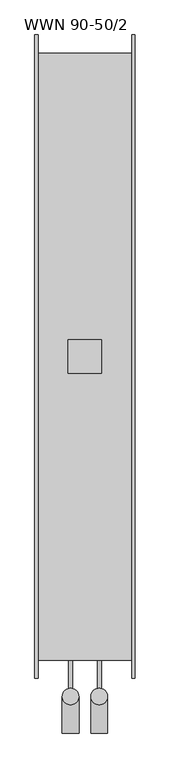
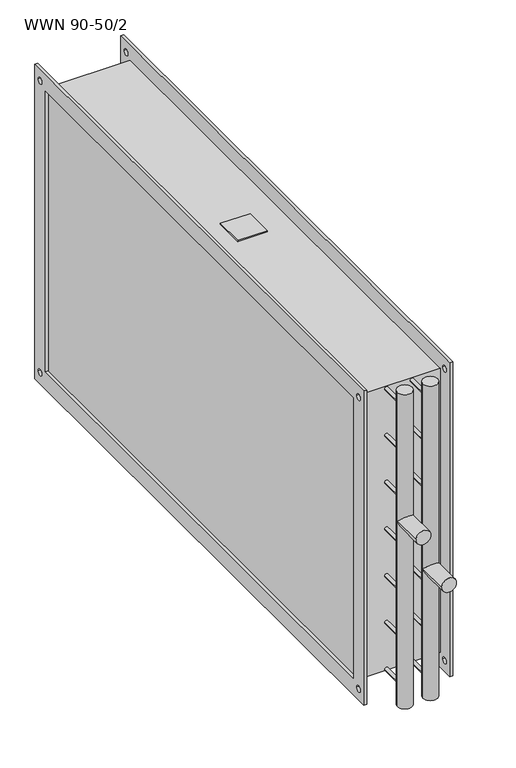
"""IFC4 building model written with IfcOpenShell, lengths in millimetres: proxy geometry, KORF_Нагреватель_Водяной_WWN : WWN 90-50/2."""

from ifc_helpers import new_model, si_unit, point, frame, frame_2d, origin, place, context, project, spatial, polyline, circle_curve, ellipse_curve, trimmed, segment, composite_curve, outline, extrude, source, transform, mapped, element, save
from ifc_brep_helpers import plane_surface, cylinder_surface, advanced_brep


def wwn_90_50_2_74f086dd(model_context):
    return source(origin(), model_context, "Body", "SolidModel", [
        extrude(outline(polyline([(50.0, -25.0), (50.0, 25.0), (100.0, 25.0), (100.0, -25.0), (50.0, -25.0)])), frame((0.0, 0.0, 253.0), z_axis=(0.0, 0.0, 1.0), x_axis=(1.0, 0.0, 0.0)), (0.0, 0.0, 1.0), 2.0),
        extrude(outline(polyline([(-480.0, 280.0), (480.0, 280.0), (480.0, -280.0), (-480.0, -280.0), (-480.0, 280.0)]), holes=[polyline([(-450.0, 250.0), (-450.0, -250.0), (450.0, -250.0), (450.0, 250.0), (-450.0, 250.0)]), composite_curve([segment(trimmed(circle_curve(frame_2d((465.0, 260.0)), 5.5), [point((459.5, 260.0))], [point((470.5, 260.0))], True, "CARTESIAN"), True, "CONTINUOUS"), segment(trimmed(circle_curve(frame_2d((465.0, 260.0)), 5.5), [point((470.5, 260.0))], [point((459.5, 260.0))], True, "CARTESIAN"), True, "CONTINUOUS")], self_intersect=False), composite_curve([segment(trimmed(circle_curve(frame_2d((-465.0, 260.0)), 5.5), [point((-470.5, 260.0))], [point((-459.5, 260.0))], True, "CARTESIAN"), True, "CONTINUOUS"), segment(trimmed(circle_curve(frame_2d((-465.0, 260.0)), 5.5), [point((-459.5, 260.0))], [point((-470.5, 260.0))], True, "CARTESIAN"), True, "CONTINUOUS")], self_intersect=False), composite_curve([segment(trimmed(circle_curve(frame_2d((-465.0, -260.0)), 5.5), [point((-470.5, -260.0))], [point((-459.5, -260.0))], True, "CARTESIAN"), True, "CONTINUOUS"), segment(trimmed(circle_curve(frame_2d((-465.0, -260.0)), 5.5), [point((-459.5, -260.0))], [point((-470.5, -260.0))], True, "CARTESIAN"), True, "CONTINUOUS")], self_intersect=False), composite_curve([segment(trimmed(circle_curve(frame_2d((465.0, -260.0)), 5.5), [point((459.5, -260.0))], [point((470.5, -260.0))], True, "CARTESIAN"), True, "CONTINUOUS"), segment(trimmed(circle_curve(frame_2d((465.0, -260.0)), 5.5), [point((470.5, -260.0))], [point((459.5, -260.0))], True, "CARTESIAN"), True, "CONTINUOUS")], self_intersect=False)]), frame((145.0, 0.0, 0.0), z_axis=(1.0, 0.0, 0.0), x_axis=(0.0, 1.0, 0.0)), (0.0, 0.0, 1.0), 5.0),
        extrude(outline(polyline([(-480.0, 280.0), (480.0, 280.0), (480.0, -280.0), (-480.0, -280.0), (-480.0, 280.0)]), holes=[polyline([(-450.0, 250.0), (-450.0, -250.0), (450.0, -250.0), (450.0, 250.0), (-450.0, 250.0)]), composite_curve([segment(trimmed(circle_curve(frame_2d((465.0, 260.0)), 5.5), [point((459.5, 260.0))], [point((470.5, 260.0))], True, "CARTESIAN"), True, "CONTINUOUS"), segment(trimmed(circle_curve(frame_2d((465.0, 260.0)), 5.5), [point((470.5, 260.0))], [point((459.5, 260.0))], True, "CARTESIAN"), True, "CONTINUOUS")], self_intersect=False), composite_curve([segment(trimmed(circle_curve(frame_2d((-465.0, 260.0)), 5.5), [point((-470.5, 260.0))], [point((-459.5, 260.0))], True, "CARTESIAN"), True, "CONTINUOUS"), segment(trimmed(circle_curve(frame_2d((-465.0, 260.0)), 5.5), [point((-459.5, 260.0))], [point((-470.5, 260.0))], True, "CARTESIAN"), True, "CONTINUOUS")], self_intersect=False), composite_curve([segment(trimmed(circle_curve(frame_2d((-465.0, -260.0)), 5.5), [point((-470.5, -260.0))], [point((-459.5, -260.0))], True, "CARTESIAN"), True, "CONTINUOUS"), segment(trimmed(circle_curve(frame_2d((-465.0, -260.0)), 5.5), [point((-459.5, -260.0))], [point((-470.5, -260.0))], True, "CARTESIAN"), True, "CONTINUOUS")], self_intersect=False), composite_curve([segment(trimmed(circle_curve(frame_2d((465.0, -260.0)), 5.5), [point((459.5, -260.0))], [point((470.5, -260.0))], True, "CARTESIAN"), True, "CONTINUOUS"), segment(trimmed(circle_curve(frame_2d((465.0, -260.0)), 5.5), [point((470.5, -260.0))], [point((459.5, -260.0))], True, "CARTESIAN"), True, "CONTINUOUS")], self_intersect=False)]), frame((0.0, 0.0, 0.0), z_axis=(1.0, 0.0, 0.0), x_axis=(0.0, 1.0, 0.0)), (0.0, 0.0, 1.0), 5.0),
        extrude(outline(polyline([(145.0, 453.0), (145.0, -453.0), (5.0, -453.0), (5.0, 453.0), (145.0, 453.0)])), frame((0.0, 0.0, -253.0), z_axis=(0.0, 0.0, 1.0), x_axis=(1.0, 0.0, 0.0)), (0.0, 0.0, 1.0), 506.0),
        advanced_brep(
        [(41.0, -562.0, 50.0), (66.0, -562.0, 50.0), (41.0, -507.5, 50.0), (66.0, -507.5, 50.0), (41.0, -507.5, 280.0), (66.0, -507.5, 280.0), (41.0, -507.5, -280.0), (66.0, -507.5, -280.0)],
        [
            (0, 1, circle_curve(frame((53.5, -562.0, 50.0), z_axis=(0.0, -1.0, 0.0), x_axis=(1.0, 0.0, 0.0)), 12.5)),
            (1, 0, circle_curve(frame((53.5, -562.0, 50.0), z_axis=(0.0, -1.0, 0.0), x_axis=(1.0, 0.0, 0.0)), 12.5)),
            (0, 2),
            (2, 3, ellipse_curve(frame((53.5, -507.5, 50.0), z_axis=(0.0, -0.7071067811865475, 0.7071067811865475), x_axis=(0.0, -0.7071067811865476, -0.7071067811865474)), 17.6776695, 12.5)),
            (3, 1),
            (3, 2, ellipse_curve(frame((53.5, -507.5, 50.0), z_axis=(0.0, -0.7071067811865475, -0.7071067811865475), x_axis=(0.0, -0.7071067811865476, 0.7071067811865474)), 17.6776695, 12.5)),
            (4, 5, circle_curve(frame((53.5, -507.5, 280.0), z_axis=(0.0, 0.0, 1.0), x_axis=(1.0, 0.0, 0.0)), 12.5)),
            (5, 4, circle_curve(frame((53.5, -507.5, 280.0), z_axis=(0.0, 0.0, 1.0), x_axis=(1.0, 0.0, 0.0)), 12.5)),
            (6, 7, circle_curve(frame((53.5, -507.5, -280.0), z_axis=(0.0, 0.0, -1.0), x_axis=(1.0, 0.0, 0.0)), 12.5)),
            (7, 6, circle_curve(frame((53.5, -507.5, -280.0), z_axis=(0.0, 0.0, -1.0), x_axis=(1.0, 0.0, 0.0)), 12.5)),
            (4, 2),
            (3, 5),
            (7, 3),
            (2, 6),
        ],
        [
            plane_surface(frame((66.0, -562.0, 50.0), z_axis=(0.0, -1.0, 0.0), x_axis=(0.0, 0.0, 1.0))),
            cylinder_surface(frame((53.5, -507.5, 50.0), z_axis=(0.0, -1.0, 0.0), x_axis=(1.0, 0.0, 0.0)), 12.5),
            plane_surface(frame((66.0, -507.5, 280.0), z_axis=(0.0, 0.0, 1.0), x_axis=(0.0, 1.0, 0.0))),
            plane_surface(frame((66.0, -507.5, -280.0), z_axis=(0.0, 0.0, -1.0), x_axis=(0.0, -1.0, 0.0))),
            cylinder_surface(frame((53.5, -507.5, -280.0), z_axis=(0.0, 0.0, 1.0), x_axis=(1.0, 0.0, 0.0)), 12.5),
        ],
        [
            (0, [[1, 2]]),
            (1, [[-1, 3, 4, 5]]),
            (1, [[-2, -5, 6, -3]]),
            (2, [[7, 8]]),
            (3, [[9, 10]]),
            (4, [[-7, 11, -6, 12]]),
            (4, [[-10, 13, -4, 14]]),
            (4, [[-8, -12, -13, -9, -14, -11]]),
        ],
    ),
        advanced_brep(
        [(84.0, -562.0, -50.0), (109.0, -562.0, -50.0), (84.0, -507.5, -50.0), (109.0, -507.5, -50.0), (84.0, -507.5, 280.0), (109.0, -507.5, 280.0), (84.0, -507.5, -280.0), (109.0, -507.5, -280.0)],
        [
            (0, 1, circle_curve(frame((96.5, -562.0, -50.0), z_axis=(0.0, -1.0, 0.0), x_axis=(1.0, 0.0, 0.0)), 12.5)),
            (1, 0, circle_curve(frame((96.5, -562.0, -50.0), z_axis=(0.0, -1.0, 0.0), x_axis=(1.0, 0.0, 0.0)), 12.5)),
            (0, 2),
            (2, 3, ellipse_curve(frame((96.5, -507.5, -50.0), z_axis=(0.0, -0.7071067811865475, 0.7071067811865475), x_axis=(0.0, -0.7071067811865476, -0.7071067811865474)), 17.6776695, 12.5)),
            (3, 1),
            (3, 2, ellipse_curve(frame((96.5, -507.5, -50.0), z_axis=(0.0, -0.7071067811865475, -0.7071067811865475), x_axis=(0.0, -0.7071067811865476, 0.7071067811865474)), 17.6776695, 12.5)),
            (4, 5, circle_curve(frame((96.5, -507.5, 280.0), z_axis=(0.0, 0.0, 1.0), x_axis=(1.0, 0.0, 0.0)), 12.5)),
            (5, 4, circle_curve(frame((96.5, -507.5, 280.0), z_axis=(0.0, 0.0, 1.0), x_axis=(1.0, 0.0, 0.0)), 12.5)),
            (6, 7, circle_curve(frame((96.5, -507.5, -280.0), z_axis=(0.0, 0.0, -1.0), x_axis=(1.0, 0.0, 0.0)), 12.5)),
            (7, 6, circle_curve(frame((96.5, -507.5, -280.0), z_axis=(0.0, 0.0, -1.0), x_axis=(1.0, 0.0, 0.0)), 12.5)),
            (4, 2),
            (3, 5),
            (7, 3),
            (2, 6),
        ],
        [
            plane_surface(frame((66.0, -562.0, 50.0), z_axis=(0.0, -1.0, 0.0), x_axis=(0.0, 0.0, 1.0))),
            cylinder_surface(frame((96.5, 0.0, -50.0), z_axis=(0.0, -1.0, 0.0), x_axis=(1.0, 0.0, 0.0)), 12.5),
            plane_surface(frame((66.0, -507.5, 280.0), z_axis=(0.0, 0.0, 1.0), x_axis=(0.0, 1.0, 0.0))),
            plane_surface(frame((66.0, -507.5, -280.0), z_axis=(0.0, 0.0, -1.0), x_axis=(0.0, -1.0, 0.0))),
            cylinder_surface(frame((96.5, -507.5, 0.0), z_axis=(0.0, 0.0, 1.0), x_axis=(1.0, 0.0, 0.0)), 12.5),
        ],
        [
            (0, [[1, 2]]),
            (1, [[-1, 3, 4, 5]]),
            (1, [[-2, -5, 6, -3]]),
            (2, [[7, 8]]),
            (3, [[9, 10]]),
            (4, [[-7, 11, -6, 12]]),
            (4, [[-10, 13, -4, 14]]),
            (4, [[-8, -12, -13, -9, -14, -11]]),
        ],
    ),
        extrude(outline(composite_curve([segment(trimmed(circle_curve(frame_2d((250.0, 53.5)), 3.0), [point((250.0, 50.5))], [point((250.0, 56.5))], False, "CARTESIAN"), True, "CONTINUOUS"), segment(trimmed(circle_curve(frame_2d((250.0, 53.5)), 3.0), [point((250.0, 56.5))], [point((250.0, 50.5))], False, "CARTESIAN"), True, "CONTINUOUS")], self_intersect=False)), frame((0.0, -507.5, 0.0), z_axis=(0.0, 1.0, 0.0), x_axis=(0.0, 0.0, 1.0)), (0.0, 0.0, 1.0), 54.5),
        extrude(outline(composite_curve([segment(trimmed(circle_curve(frame_2d((166.6666667, 53.5)), 3.0), [point((166.6666667, 50.5))], [point((166.6666667, 56.5))], False, "CARTESIAN"), True, "CONTINUOUS"), segment(trimmed(circle_curve(frame_2d((166.6666667, 53.5)), 3.0), [point((166.6666667, 56.5))], [point((166.6666667, 50.5))], False, "CARTESIAN"), True, "CONTINUOUS")], self_intersect=False)), frame((0.0, -507.5, 0.0), z_axis=(0.0, 1.0, 0.0), x_axis=(0.0, 0.0, 1.0)), (0.0, 0.0, 1.0), 54.5),
        extrude(outline(composite_curve([segment(trimmed(circle_curve(frame_2d((83.3333333, 53.5)), 3.0), [point((83.3333333, 50.5))], [point((83.3333333, 56.5))], False, "CARTESIAN"), True, "CONTINUOUS"), segment(trimmed(circle_curve(frame_2d((83.3333333, 53.5)), 3.0), [point((83.3333333, 56.5))], [point((83.3333333, 50.5))], False, "CARTESIAN"), True, "CONTINUOUS")], self_intersect=False)), frame((0.0, -507.5, 0.0), z_axis=(0.0, 1.0, 0.0), x_axis=(0.0, 0.0, 1.0)), (0.0, 0.0, 1.0), 54.5),
        extrude(outline(composite_curve([segment(trimmed(circle_curve(frame_2d((0.0, 53.5)), 3.0), [point((0.0, 50.5))], [point((0.0, 56.5))], False, "CARTESIAN"), True, "CONTINUOUS"), segment(trimmed(circle_curve(frame_2d((0.0, 53.5)), 3.0), [point((0.0, 56.5))], [point((0.0, 50.5))], False, "CARTESIAN"), True, "CONTINUOUS")], self_intersect=False)), frame((0.0, -507.5, 0.0), z_axis=(0.0, 1.0, 0.0), x_axis=(0.0, 0.0, 1.0)), (0.0, 0.0, 1.0), 54.5),
        extrude(outline(composite_curve([segment(trimmed(circle_curve(frame_2d((-83.3333333, 53.5)), 3.0), [point((-83.3333333, 50.5))], [point((-83.3333333, 56.5))], False, "CARTESIAN"), True, "CONTINUOUS"), segment(trimmed(circle_curve(frame_2d((-83.3333333, 53.5)), 3.0), [point((-83.3333333, 56.5))], [point((-83.3333333, 50.5))], False, "CARTESIAN"), True, "CONTINUOUS")], self_intersect=False)), frame((0.0, -507.5, 0.0), z_axis=(0.0, 1.0, 0.0), x_axis=(0.0, 0.0, 1.0)), (0.0, 0.0, 1.0), 54.5),
        extrude(outline(composite_curve([segment(trimmed(circle_curve(frame_2d((-166.6666667, 53.5)), 3.0), [point((-166.6666667, 50.5))], [point((-166.6666667, 56.5))], False, "CARTESIAN"), True, "CONTINUOUS"), segment(trimmed(circle_curve(frame_2d((-166.6666667, 53.5)), 3.0), [point((-166.6666667, 56.5))], [point((-166.6666667, 50.5))], False, "CARTESIAN"), True, "CONTINUOUS")], self_intersect=False)), frame((0.0, -507.5, 0.0), z_axis=(0.0, 1.0, 0.0), x_axis=(0.0, 0.0, 1.0)), (0.0, 0.0, 1.0), 54.5),
        extrude(outline(composite_curve([segment(trimmed(circle_curve(frame_2d((-166.6666667, 96.5)), 3.0), [point((-166.6666667, 93.5))], [point((-166.6666667, 99.5))], False, "CARTESIAN"), True, "CONTINUOUS"), segment(trimmed(circle_curve(frame_2d((-166.6666667, 96.5)), 3.0), [point((-166.6666667, 99.5))], [point((-166.6666667, 93.5))], False, "CARTESIAN"), True, "CONTINUOUS")], self_intersect=False)), frame((0.0, -507.5, 0.0), z_axis=(0.0, 1.0, 0.0), x_axis=(0.0, 0.0, 1.0)), (0.0, 0.0, 1.0), 54.5),
        extrude(outline(composite_curve([segment(trimmed(circle_curve(frame_2d((-83.3333333, 96.5)), 3.0), [point((-83.3333333, 93.5))], [point((-83.3333333, 99.5))], False, "CARTESIAN"), True, "CONTINUOUS"), segment(trimmed(circle_curve(frame_2d((-83.3333333, 96.5)), 3.0), [point((-83.3333333, 99.5))], [point((-83.3333333, 93.5))], False, "CARTESIAN"), True, "CONTINUOUS")], self_intersect=False)), frame((0.0, -507.5, 0.0), z_axis=(0.0, 1.0, 0.0), x_axis=(0.0, 0.0, 1.0)), (0.0, 0.0, 1.0), 54.5),
        extrude(outline(composite_curve([segment(trimmed(circle_curve(frame_2d((0.0, 96.5)), 3.0), [point((0.0, 93.5))], [point((0.0, 99.5))], False, "CARTESIAN"), True, "CONTINUOUS"), segment(trimmed(circle_curve(frame_2d((0.0, 96.5)), 3.0), [point((0.0, 99.5))], [point((0.0, 93.5))], False, "CARTESIAN"), True, "CONTINUOUS")], self_intersect=False)), frame((0.0, -507.5, 0.0), z_axis=(0.0, 1.0, 0.0), x_axis=(0.0, 0.0, 1.0)), (0.0, 0.0, 1.0), 54.5),
        extrude(outline(composite_curve([segment(trimmed(circle_curve(frame_2d((83.3333333, 96.5)), 3.0), [point((83.3333333, 93.5))], [point((83.3333333, 99.5))], False, "CARTESIAN"), True, "CONTINUOUS"), segment(trimmed(circle_curve(frame_2d((83.3333333, 96.5)), 3.0), [point((83.3333333, 99.5))], [point((83.3333333, 93.5))], False, "CARTESIAN"), True, "CONTINUOUS")], self_intersect=False)), frame((0.0, -507.5, 0.0), z_axis=(0.0, 1.0, 0.0), x_axis=(0.0, 0.0, 1.0)), (0.0, 0.0, 1.0), 54.5),
        extrude(outline(composite_curve([segment(trimmed(circle_curve(frame_2d((166.6666667, 96.5)), 3.0), [point((166.6666667, 93.5))], [point((166.6666667, 99.5))], False, "CARTESIAN"), True, "CONTINUOUS"), segment(trimmed(circle_curve(frame_2d((166.6666667, 96.5)), 3.0), [point((166.6666667, 99.5))], [point((166.6666667, 93.5))], False, "CARTESIAN"), True, "CONTINUOUS")], self_intersect=False)), frame((0.0, -507.5, 0.0), z_axis=(0.0, 1.0, 0.0), x_axis=(0.0, 0.0, 1.0)), (0.0, 0.0, 1.0), 54.5),
        extrude(outline(composite_curve([segment(trimmed(circle_curve(frame_2d((250.0, 96.5)), 3.0), [point((250.0, 93.5))], [point((250.0, 99.5))], False, "CARTESIAN"), True, "CONTINUOUS"), segment(trimmed(circle_curve(frame_2d((250.0, 96.5)), 3.0), [point((250.0, 99.5))], [point((250.0, 93.5))], False, "CARTESIAN"), True, "CONTINUOUS")], self_intersect=False)), frame((0.0, -507.5, 0.0), z_axis=(0.0, 1.0, 0.0), x_axis=(0.0, 0.0, 1.0)), (0.0, 0.0, 1.0), 54.5),
        extrude(outline(composite_curve([segment(trimmed(circle_curve(frame_2d((-250.0, 53.5)), 3.0), [point((-250.0, 50.5))], [point((-250.0, 56.5))], False, "CARTESIAN"), True, "CONTINUOUS"), segment(trimmed(circle_curve(frame_2d((-250.0, 53.5)), 3.0), [point((-250.0, 56.5))], [point((-250.0, 50.5))], False, "CARTESIAN"), True, "CONTINUOUS")], self_intersect=False)), frame((0.0, -507.5, 0.0), z_axis=(0.0, 1.0, 0.0), x_axis=(0.0, 0.0, 1.0)), (0.0, 0.0, 1.0), 54.5),
        extrude(outline(composite_curve([segment(trimmed(circle_curve(frame_2d((-250.0, 96.5)), 3.0), [point((-250.0, 93.5))], [point((-250.0, 99.5))], False, "CARTESIAN"), True, "CONTINUOUS"), segment(trimmed(circle_curve(frame_2d((-250.0, 96.5)), 3.0), [point((-250.0, 99.5))], [point((-250.0, 93.5))], False, "CARTESIAN"), True, "CONTINUOUS")], self_intersect=False)), frame((0.0, -507.5, 0.0), z_axis=(0.0, 1.0, 0.0), x_axis=(0.0, 0.0, 1.0)), (0.0, 0.0, 1.0), 54.5),
    ])


if __name__ == "__main__":
    model = new_model("IFC4")
    model_context = context("Model", 3, world=origin())
    ifc_project = project(units=[si_unit("LENGTHUNIT", "METRE", prefix="MILLI")], contexts=[model_context])
    site = spatial("IfcSite", under=ifc_project)
    building = spatial("IfcBuilding", under=site)
    placement = place(None, origin())
    wwn_90_50_2_shape = wwn_90_50_2_74f086dd(model_context)
    element("IfcBuildingElementProxy", 1, Name="KORF_Нагреватель_Водяной_WWN : WWN 90-50/2", ObjectType="KORF_Нагреватель_Водяной_WWN : WWN 90-50/2", at=placement, inside=building, context=model_context, shape_type="MappedRepresentation", body=[
        mapped(wwn_90_50_2_shape, transform((0.0, 0.0, 0.0), x_axis=(1.0, 0.0, 0.0), y_axis=(0.0, 1.0, 0.0), z_axis=(0.0, 0.0, 1.0))),
    ])
    save(model, "model.ifc")
